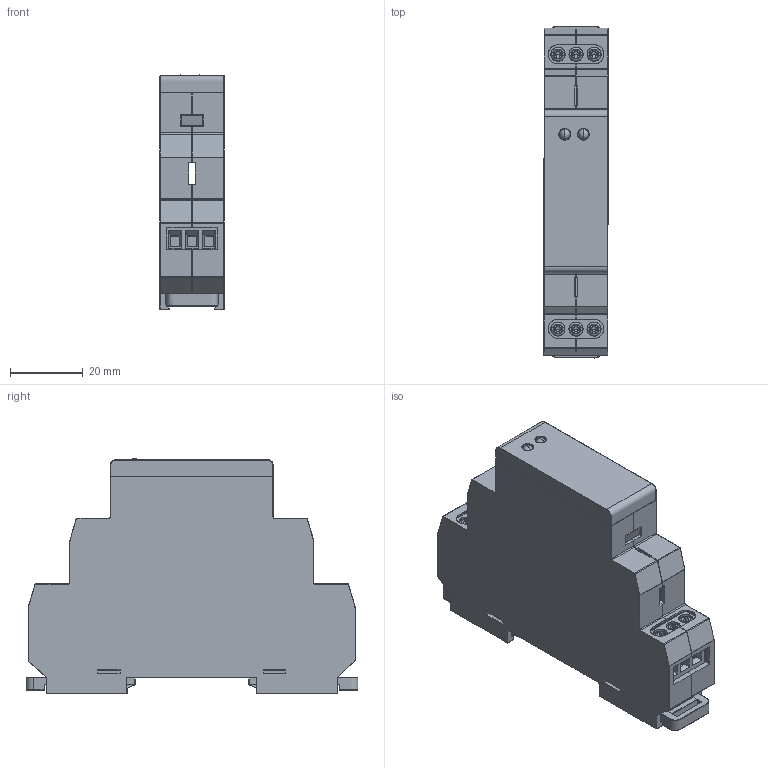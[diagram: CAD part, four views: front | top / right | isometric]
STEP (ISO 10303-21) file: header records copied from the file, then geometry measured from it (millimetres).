
FILE_DESCRIPTION (( 'STEP AP214' ), '1' );
FILE_NAME ('OptiRel C RI-41.STEP', '2019-06-24T09:49:30', ( '' ), ( '' ), 'SwSTEP 2.0', 'SolidWorks 2018', '' );
FILE_SCHEMA (( 'AUTOMOTIVE_DESIGN' ));
Length unit declared in the file: millimetre
Products named in the file (1): OptiRel C RI-41
Bounding box: 17.62 x 91.27 x 64.51 mm (x, y, z)
Surface area: 32631.3 mm2 (no closed solid volume)
Topology: 0 solids, 1515 shells, 1641 faces, 7977 edges, 7841 vertices
Faces by surface type: bspline 954, plane 687
Entity records: 117998 total; most frequent: CARTESIAN_POINT 78295, ORIENTED_EDGE 8241, EDGE_CURVE 7957, VERTEX_POINT 7841, B_SPLINE_CURVE_WITH_KNOTS 6213, EDGE_LOOP 1672, ADVANCED_FACE 1641, FACE_OUTER_BOUND 1641
